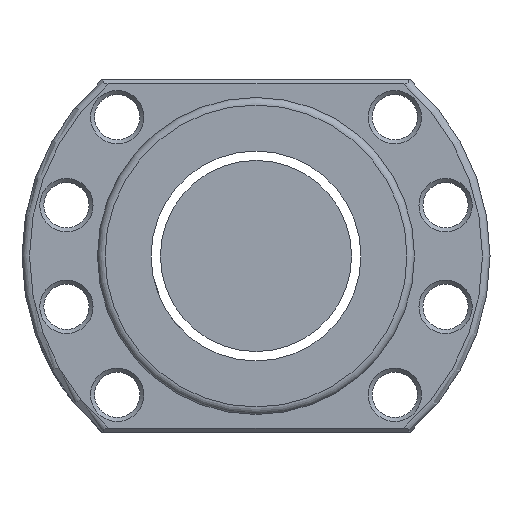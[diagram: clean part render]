
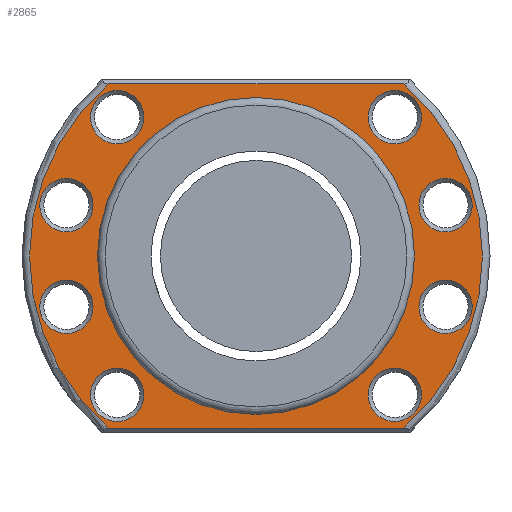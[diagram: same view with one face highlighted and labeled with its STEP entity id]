
A CAD part, left-side view. The second image highlights one B-rep face of the part: STEP entity #2865.
In plain terms, the highlighted planar face has unit normal (-1, 0, 0).
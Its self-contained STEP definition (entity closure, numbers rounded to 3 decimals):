
#44 = ORIENTED_EDGE ( 'NONE', *, *, #1383, .T. ) ;
#65 = FACE_BOUND ( 'NONE', #2885, .T. ) ;
#88 = CIRCLE ( 'NONE', #2097, 45. ) ;
#96 = CIRCLE ( 'NONE', #3202, 5.3 ) ;
#99 = FACE_BOUND ( 'NONE', #467, .T. ) ;
#102 = VERTEX_POINT ( 'NONE', #3000 ) ;
#106 = EDGE_CURVE ( 'NONE', #2159, #2159, #2977, .T. ) ;
#119 = VERTEX_POINT ( 'NONE', #2747 ) ;
#133 = VERTEX_POINT ( 'NONE', #3324 ) ;
#149 = ORIENTED_EDGE ( 'NONE', *, *, #660, .T. ) ;
#168 = ORIENTED_EDGE ( 'NONE', *, *, #1865, .T. ) ;
#178 = CARTESIAN_POINT ( 'NONE',  ( -69., 0., 0. ) ) ;
#206 = EDGE_CURVE ( 'NONE', #2335, #2963, #88, .T. ) ;
#215 = DIRECTION ( 'NONE',  ( 0., 0., 1. ) ) ;
#230 = DIRECTION ( 'NONE',  ( -1., 0., 0. ) ) ;
#298 = DIRECTION ( 'NONE',  ( 0., 0., 1. ) ) ;
#320 = EDGE_CURVE ( 'NONE', #573, #573, #534, .T. ) ;
#333 = CARTESIAN_POINT ( 'NONE',  ( -69., -37.671, 15.394 ) ) ;
#344 = ORIENTED_EDGE ( 'NONE', *, *, #1509, .T. ) ;
#358 = EDGE_CURVE ( 'NONE', #1588, #3185, #3139, .T. ) ;
#372 = AXIS2_PLACEMENT_3D ( 'NONE', #3250, #2474, #2770 ) ;
#467 = EDGE_LOOP ( 'NONE', ( #1328 ) ) ;
#528 = CARTESIAN_POINT ( 'NONE',  ( -69., 46.5, 34.2 ) ) ;
#534 = CIRCLE ( 'NONE', #1814, 5.3 ) ;
#538 = EDGE_LOOP ( 'NONE', ( #344 ) ) ;
#573 = VERTEX_POINT ( 'NONE', #333 ) ;
#639 = FACE_BOUND ( 'NONE', #2811, .T. ) ;
#660 = EDGE_CURVE ( 'NONE', #1915, #1915, #2867, .T. ) ;
#693 = VERTEX_POINT ( 'NONE', #1946 ) ;
#750 = DIRECTION ( 'NONE',  ( 1., 0., 0. ) ) ;
#780 = EDGE_LOOP ( 'NONE', ( #3222 ) ) ;
#792 = DIRECTION ( 'NONE',  ( 1., 0., 0. ) ) ;
#798 = CARTESIAN_POINT ( 'NONE',  ( -69., 27.577, 27.577 ) ) ;
#819 = VECTOR ( 'NONE', #1779, 1000. ) ;
#870 = CARTESIAN_POINT ( 'NONE',  ( -69., 29.247, 34.2 ) ) ;
#879 = FACE_BOUND ( 'NONE', #2580, .T. ) ;
#887 = DIRECTION ( 'NONE',  ( -1., 0., 0. ) ) ;
#897 = FACE_OUTER_BOUND ( 'NONE', #2385, .T. ) ;
#934 = ORIENTED_EDGE ( 'NONE', *, *, #1250, .T. ) ;
#941 = DIRECTION ( 'NONE',  ( 0., -1., 0. ) ) ;
#951 = VECTOR ( 'NONE', #941, 1000. ) ;
#982 = CARTESIAN_POINT ( 'NONE',  ( -69., -27.577, 27.577 ) ) ;
#1000 = CARTESIAN_POINT ( 'NONE',  ( -69., -37.671, -10.094 ) ) ;
#1020 = DIRECTION ( 'NONE',  ( 0., 0., 1. ) ) ;
#1058 = DIRECTION ( 'NONE',  ( 0., 0., -1. ) ) ;
#1091 = CARTESIAN_POINT ( 'NONE',  ( -69., 29.247, -34.2 ) ) ;
#1128 = CIRCLE ( 'NONE', #2125, 5.3 ) ;
#1169 = FACE_BOUND ( 'NONE', #1607, .T. ) ;
#1188 = EDGE_CURVE ( 'NONE', #2963, #1588, #2543, .T. ) ;
#1242 = DIRECTION ( 'NONE',  ( 0., 0., 1. ) ) ;
#1250 = EDGE_CURVE ( 'NONE', #133, #133, #1128, .T. ) ;
#1259 = CARTESIAN_POINT ( 'NONE',  ( -69., 0., 0. ) ) ;
#1274 = CIRCLE ( 'NONE', #1494, 5.3 ) ;
#1277 = CARTESIAN_POINT ( 'NONE',  ( -69., -29.247, 34.2 ) ) ;
#1328 = ORIENTED_EDGE ( 'NONE', *, *, #106, .T. ) ;
#1362 = DIRECTION ( 'NONE',  ( 1., 0., 0. ) ) ;
#1377 = FACE_BOUND ( 'NONE', #1518, .T. ) ;
#1383 = EDGE_CURVE ( 'NONE', #2518, #2518, #2044, .T. ) ;
#1390 = EDGE_CURVE ( 'NONE', #3185, #2335, #2304, .T. ) ;
#1427 = CARTESIAN_POINT ( 'NONE',  ( -69., -27.577, -27.577 ) ) ;
#1483 = AXIS2_PLACEMENT_3D ( 'NONE', #1259, #230, #1812 ) ;
#1494 = AXIS2_PLACEMENT_3D ( 'NONE', #798, #2952, #2141 ) ;
#1509 = EDGE_CURVE ( 'NONE', #693, #693, #2216, .T. ) ;
#1518 = EDGE_LOOP ( 'NONE', ( #2088 ) ) ;
#1588 = VERTEX_POINT ( 'NONE', #1760 ) ;
#1607 = EDGE_LOOP ( 'NONE', ( #44 ) ) ;
#1637 = CARTESIAN_POINT ( 'NONE',  ( -69., 46.5, 0. ) ) ;
#1686 = FACE_BOUND ( 'NONE', #780, .T. ) ;
#1701 = DIRECTION ( 'NONE',  ( -1., 0., 0. ) ) ;
#1760 = CARTESIAN_POINT ( 'NONE',  ( -69., -29.247, -34.2 ) ) ;
#1779 = DIRECTION ( 'NONE',  ( 0., 1., 0. ) ) ;
#1781 = CARTESIAN_POINT ( 'NONE',  ( -69., 27.577, -27.577 ) ) ;
#1812 = DIRECTION ( 'NONE',  ( 0., 0., 1. ) ) ;
#1814 = AXIS2_PLACEMENT_3D ( 'NONE', #3052, #750, #1242 ) ;
#1844 = ORIENTED_EDGE ( 'NONE', *, *, #1390, .T. ) ;
#1865 = EDGE_CURVE ( 'NONE', #2781, #2781, #96, .T. ) ;
#1894 = ORIENTED_EDGE ( 'NONE', *, *, #1188, .T. ) ;
#1915 = VERTEX_POINT ( 'NONE', #2935 ) ;
#1930 = FACE_BOUND ( 'NONE', #538, .T. ) ;
#1931 = CARTESIAN_POINT ( 'NONE',  ( -69., 37.671, -4.794 ) ) ;
#1946 = CARTESIAN_POINT ( 'NONE',  ( -69., -37.671, -4.794 ) ) ;
#1961 = PLANE ( 'NONE',  #2443 ) ;
#1977 = AXIS2_PLACEMENT_3D ( 'NONE', #1781, #792, #1020 ) ;
#2043 = DIRECTION ( 'NONE',  ( 1., 0., 0. ) ) ;
#2044 = CIRCLE ( 'NONE', #3256, 31.5 ) ;
#2063 = EDGE_CURVE ( 'NONE', #102, #102, #2660, .T. ) ;
#2088 = ORIENTED_EDGE ( 'NONE', *, *, #320, .T. ) ;
#2096 = DIRECTION ( 'NONE',  ( 1., 0., 0. ) ) ;
#2097 = AXIS2_PLACEMENT_3D ( 'NONE', #2723, #887, #2199 ) ;
#2108 = ORIENTED_EDGE ( 'NONE', *, *, #206, .T. ) ;
#2114 = ORIENTED_EDGE ( 'NONE', *, *, #2063, .T. ) ;
#2125 = AXIS2_PLACEMENT_3D ( 'NONE', #982, #2043, #215 ) ;
#2141 = DIRECTION ( 'NONE',  ( 0., 0., 1. ) ) ;
#2159 = VERTEX_POINT ( 'NONE', #1931 ) ;
#2199 = DIRECTION ( 'NONE',  ( 0., 0., 1. ) ) ;
#2216 = CIRCLE ( 'NONE', #2930, 5.3 ) ;
#2244 = CARTESIAN_POINT ( 'NONE',  ( -69., 0., -31.5 ) ) ;
#2293 = DIRECTION ( 'NONE',  ( 1., 0., 0. ) ) ;
#2304 = LINE ( 'NONE', #528, #819 ) ;
#2329 = DIRECTION ( 'NONE',  ( 0., 0., 1. ) ) ;
#2335 = VERTEX_POINT ( 'NONE', #870 ) ;
#2385 = EDGE_LOOP ( 'NONE', ( #2108, #1894, #2901, #1844 ) ) ;
#2443 = AXIS2_PLACEMENT_3D ( 'NONE', #1637, #1701, #298 ) ;
#2474 = DIRECTION ( 'NONE',  ( 1., 0., 0. ) ) ;
#2518 = VERTEX_POINT ( 'NONE', #2244 ) ;
#2543 = LINE ( 'NONE', #3313, #951 ) ;
#2580 = EDGE_LOOP ( 'NONE', ( #934 ) ) ;
#2660 = CIRCLE ( 'NONE', #3148, 5.3 ) ;
#2723 = CARTESIAN_POINT ( 'NONE',  ( -69., 0., 0. ) ) ;
#2746 = FACE_BOUND ( 'NONE', #3104, .T. ) ;
#2747 = CARTESIAN_POINT ( 'NONE',  ( -69., 27.577, 32.877 ) ) ;
#2759 = DIRECTION ( 'NONE',  ( 0., 0., 1. ) ) ;
#2762 = CARTESIAN_POINT ( 'NONE',  ( -69., -27.577, -22.277 ) ) ;
#2770 = DIRECTION ( 'NONE',  ( 0., 0., 1. ) ) ;
#2781 = VERTEX_POINT ( 'NONE', #2762 ) ;
#2811 = EDGE_LOOP ( 'NONE', ( #149 ) ) ;
#2865 = ADVANCED_FACE ( 'NONE', ( #65, #1930, #1377, #879, #1686, #2746, #99, #639, #1169, #897 ), #1961, .T. ) ;
#2867 = CIRCLE ( 'NONE', #1977, 5.3 ) ;
#2885 = EDGE_LOOP ( 'NONE', ( #168 ) ) ;
#2892 = DIRECTION ( 'NONE',  ( 0., 0., 1. ) ) ;
#2901 = ORIENTED_EDGE ( 'NONE', *, *, #358, .T. ) ;
#2930 = AXIS2_PLACEMENT_3D ( 'NONE', #1000, #2096, #2892 ) ;
#2935 = CARTESIAN_POINT ( 'NONE',  ( -69., 27.577, -22.277 ) ) ;
#2952 = DIRECTION ( 'NONE',  ( 1., 0., 0. ) ) ;
#2963 = VERTEX_POINT ( 'NONE', #1091 ) ;
#2977 = CIRCLE ( 'NONE', #372, 5.3 ) ;
#3000 = CARTESIAN_POINT ( 'NONE',  ( -69., 37.671, 15.394 ) ) ;
#3052 = CARTESIAN_POINT ( 'NONE',  ( -69., -37.671, 10.094 ) ) ;
#3095 = DIRECTION ( 'NONE',  ( 1., 0., 0. ) ) ;
#3104 = EDGE_LOOP ( 'NONE', ( #2114 ) ) ;
#3133 = CARTESIAN_POINT ( 'NONE',  ( -69., 37.671, 10.094 ) ) ;
#3139 = CIRCLE ( 'NONE', #1483, 45. ) ;
#3148 = AXIS2_PLACEMENT_3D ( 'NONE', #3133, #2293, #2329 ) ;
#3185 = VERTEX_POINT ( 'NONE', #1277 ) ;
#3202 = AXIS2_PLACEMENT_3D ( 'NONE', #1427, #1362, #2759 ) ;
#3222 = ORIENTED_EDGE ( 'NONE', *, *, #3334, .T. ) ;
#3250 = CARTESIAN_POINT ( 'NONE',  ( -69., 37.671, -10.094 ) ) ;
#3256 = AXIS2_PLACEMENT_3D ( 'NONE', #178, #3095, #1058 ) ;
#3313 = CARTESIAN_POINT ( 'NONE',  ( -69., 46.5, -34.2 ) ) ;
#3324 = CARTESIAN_POINT ( 'NONE',  ( -69., -27.577, 32.877 ) ) ;
#3334 = EDGE_CURVE ( 'NONE', #119, #119, #1274, .T. ) ;
